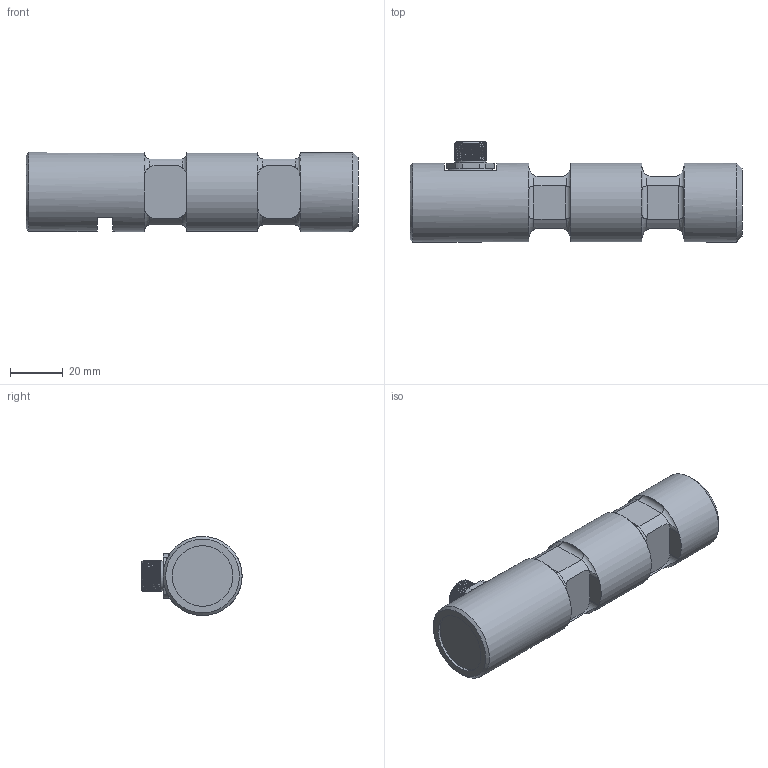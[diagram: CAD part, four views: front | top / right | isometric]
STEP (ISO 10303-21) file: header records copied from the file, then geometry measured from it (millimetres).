
FILE_DESCRIPTION(/* description */ ('Alibre Inc.'),/* implementation_level */ '2;1');
FILE_NAME(/* name */ 'export0',/* time_stamp */ '2015-04-16T09:09:33+02:00',/* author */ (''),/* organization */ (''),/* preprocessor_version */ 'ST-DEVELOPER v14',/* originating_system */ 'Alibre',/* authorisation */ '');
FILE_SCHEMA (('CONFIG_CONTROL_DESIGN'));
Length unit declared in the file: centimetre
Products named in the file (6): ID_1; ID_2; ID_3; ID_4
Bounding box: 126 x 38 x 30 mm (x, y, z)
Volume: 79058 mm3; surface area: 17811.1 mm2
Topology: 8 solids, 8 shells, 198 faces, 453 edges, 277 vertices
Faces by surface type: plane 82, cylinder 70, bspline 23, torus 17, cone 6
Full cylindrical faces by diameter (mm): 0.5 x8, 8 x2, 10 x3, 11.5 x1, 13 x1, 14.376 x1, 23 x1, 30 x3
Entity records: 19307 total; most frequent: CARTESIAN_POINT 15165, ORIENTED_EDGE 834, DIRECTION 504, EDGE_CURVE 412, VERTEX_POINT 265, FACE_BOUND 240, EDGE_LOOP 239, AXIS2_PLACEMENT_3D 222
